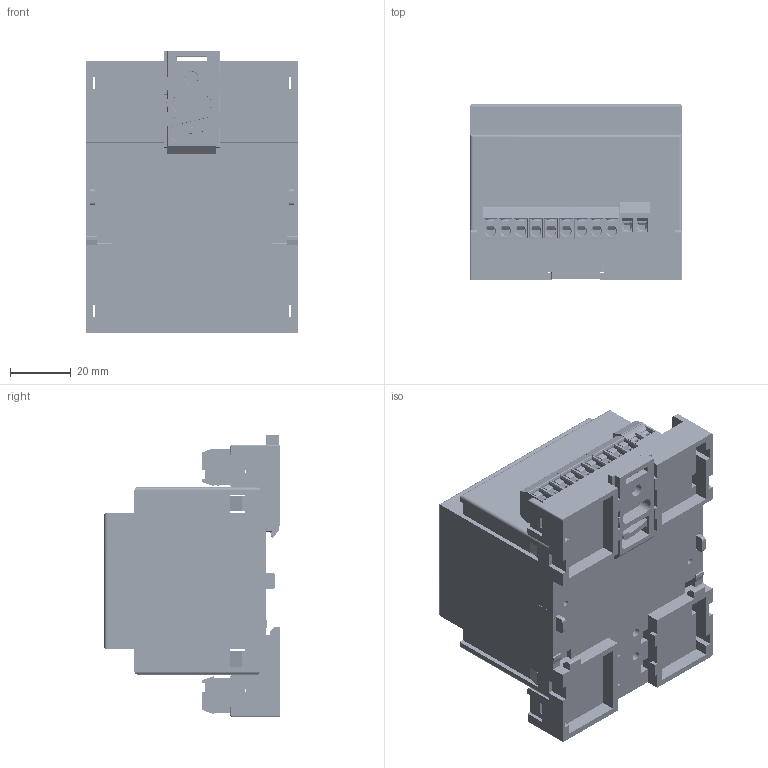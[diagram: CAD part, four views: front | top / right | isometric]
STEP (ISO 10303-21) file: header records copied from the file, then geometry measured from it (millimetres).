
FILE_DESCRIPTION (( 'STEP AP214' ), '1' );
FILE_NAME ('12410-1900-00_3D.STEP', '2014-01-09T08:59:41', ( '' ), ( '' ), 'SwSTEP 2.0', 'SolidWorks 2014', '' );
FILE_SCHEMA (( 'AUTOMOTIVE_DESIGN' ));
Length unit declared in the file: millimetre
Products named in the file (14): V4_Frontplatte; Typenschild_T224190; V4_Unterteil; 12410-1900-00_3D; 31137103; 31007103; 31137102; V-Riegel_3D; V4_Oberteil; V4_Leiterplatte
Assembly tree (14 placements, depth 2):
  12410-1900-00_3D
    V4_Unterteil
    Typenschild_T224190
    V4_Frontplatte
    V4_Leiterplatte
    V4_Oberteil
    V-Riegel_3D
    31007103
    31137102  x2
    31137103
    31007103
    31007103
    31137103
    31137103
Bounding box: 70 x 58 x 93.34 mm (x, y, z)
Volume: 70974 mm3; surface area: 89567.5 mm2
Topology: 13 solids, 547 shells, 7969 faces, 20396 edges, 13477 vertices
Faces by surface type: plane 6146, bspline 915, cylinder 715, cone 146, torus 33, sphere 14
Full cylindrical faces by diameter (mm): 0.36 x39, 1.5 x17, 1.8 x4, 1.9 x10, 2 x24, 2.1 x1, 2.25 x13, 2.4 x13, 2.7 x13, 2.8 x10, 3 x39, 3.5 x4, 3.9 x13, 4.2 x1, 4.5 x2
Entity records: 260671 total; most frequent: CARTESIAN_POINT 72101, ORIENTED_EDGE 38556, DIRECTION 32510, EDGE_CURVE 19294, VECTOR 15276, LINE 15276, VERTEX_POINT 12908, AXIS2_PLACEMENT_3D 8617
